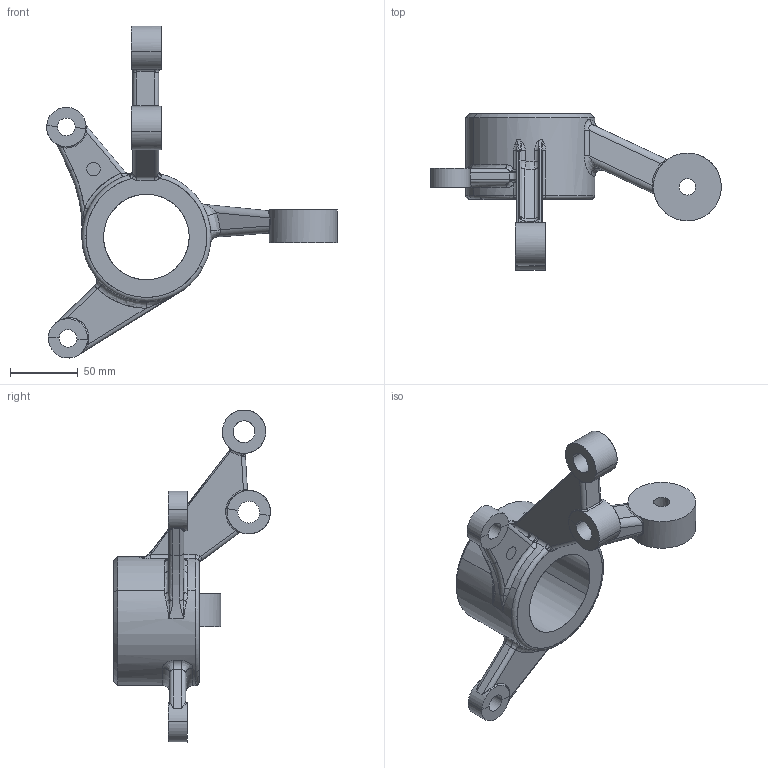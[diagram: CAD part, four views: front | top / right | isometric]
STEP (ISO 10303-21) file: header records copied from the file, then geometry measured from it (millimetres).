
FILE_DESCRIPTION(/* description */ ('AP242 STEP file','CAx-IF Rec.Pracs.---Representation and Presentation of Product Manufacturing Information (PMI)---4.0.9---2020-12-09','CAx-IF Rec.Pracs.---User Defined Attributes---1.8---2021-02-18','CAx-IF Rec.Pracs.---3D Tessellated Geometry---1.0---2015-12-17','CAx-IF Rec.Pracs.---Model Styling and Organization---1.6---2018-08-17'),/* implementation_level */ '2;1');
FILE_NAME(/* name */ '40000_11111_3DM.stp',/* time_stamp */ '2024-07-09T18:12:56+09:00',/* author */ (''),/* organization */ (''),/* preprocessor_version */ 'ST-DEVELOPER v20',/* originating_system */ 'Elysium STEP Translator v10.0.0.7',/* authorisation */ '');
FILE_SCHEMA (('AP242_MANAGED_MODEL_BASED_3D_ENGINEERING_MIM_LF { 1 0 10303 442 4 1 4 }'));
Products named in the file (4): 40000_11111; 40000_22222; 40000_11111_3DA; 40000_11111_3DM
Assembly tree (3 placements, depth 2):
  40000_11111_3DM
    40000_11111
    40000_22222
    40000_11111_3DA
Bounding box: 214.05 x 115.58 x 244.49 mm (x, y, z)
Volume: 859274.1 mm3; surface area: 189046.8 mm2
Topology: 2 solids, 24 shells, 479 faces, 1239 edges, 745 vertices
Faces by surface type: cylinder 158, bspline 144, plane 101, torus 56, cone 16, sphere 4
Entity records: 32959 total; most frequent: CARTESIAN_POINT 17112, ORIENTED_EDGE 2242, STYLED_ITEM 2190, COORDINATES_LIST 1286, TESSELLATED_CURVE_SET 1243, EDGE_CURVE 1172, AXIS2_PLACEMENT_3D 807, VERTEX_POINT 694
